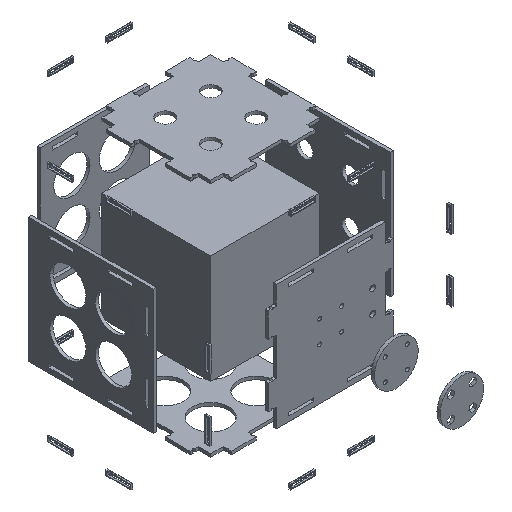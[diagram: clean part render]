
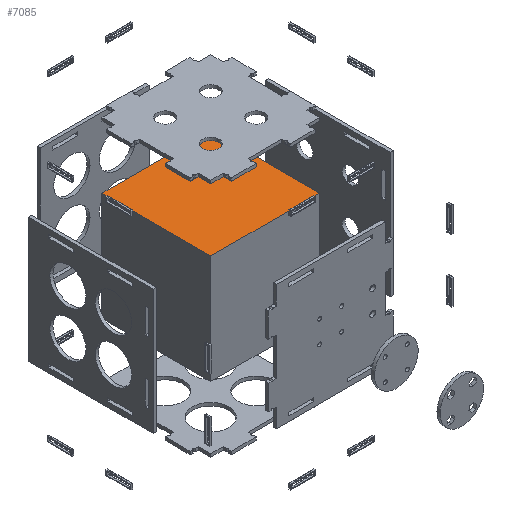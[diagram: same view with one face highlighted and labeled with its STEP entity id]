
A CAD part, isometric view. The second image highlights one B-rep face of the part: STEP entity #7085.
In plain terms, the highlighted planar face has unit normal (0, 0, 1).
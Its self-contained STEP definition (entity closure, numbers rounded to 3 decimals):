
#533=FACE_OUTER_BOUND('',#891,.T.);
#891=EDGE_LOOP('',(#4805,#4806,#4807,#4808));
#1370=LINE('',#10166,#2238);
#1372=LINE('',#10170,#2240);
#1373=LINE('',#10172,#2241);
#1374=LINE('',#10173,#2242);
#2238=VECTOR('',#8198,10.);
#2240=VECTOR('',#8202,10.);
#2241=VECTOR('',#8203,10.);
#2242=VECTOR('',#8204,10.);
#3101=VERTEX_POINT('',#10163);
#3102=VERTEX_POINT('',#10165);
#3103=VERTEX_POINT('',#10169);
#3104=VERTEX_POINT('',#10171);
#3782=EDGE_CURVE('',#3101,#3102,#1370,.T.);
#3784=EDGE_CURVE('',#3103,#3101,#1372,.T.);
#3785=EDGE_CURVE('',#3104,#3103,#1373,.T.);
#3786=EDGE_CURVE('',#3102,#3104,#1374,.T.);
#4805=ORIENTED_EDGE('',*,*,#3782,.F.);
#4806=ORIENTED_EDGE('',*,*,#3784,.F.);
#4807=ORIENTED_EDGE('',*,*,#3785,.F.);
#4808=ORIENTED_EDGE('',*,*,#3786,.F.);
#6803=PLANE('',#7626);
#7085=ADVANCED_FACE('',(#533),#6803,.T.);
#7626=AXIS2_PLACEMENT_3D('',#10168,#8200,#8201);
#8198=DIRECTION('',(0.,-1.,0.));
#8200=DIRECTION('center_axis',(0.,0.,1.));
#8201=DIRECTION('ref_axis',(1.,0.,0.));
#8202=DIRECTION('',(1.,0.,0.));
#8203=DIRECTION('',(0.,1.,0.));
#8204=DIRECTION('',(-1.,0.,0.));
#10163=CARTESIAN_POINT('',(43.5,43.5,43.5));
#10165=CARTESIAN_POINT('',(43.5,-43.5,43.5));
#10166=CARTESIAN_POINT('',(43.5,0.,43.5));
#10168=CARTESIAN_POINT('Origin',(-43.5,0.,43.5));
#10169=CARTESIAN_POINT('',(-43.5,43.5,43.5));
#10170=CARTESIAN_POINT('',(43.5,43.5,43.5));
#10171=CARTESIAN_POINT('',(-43.5,-43.5,43.5));
#10172=CARTESIAN_POINT('',(-43.5,0.,43.5));
#10173=CARTESIAN_POINT('',(43.5,-43.5,43.5));
